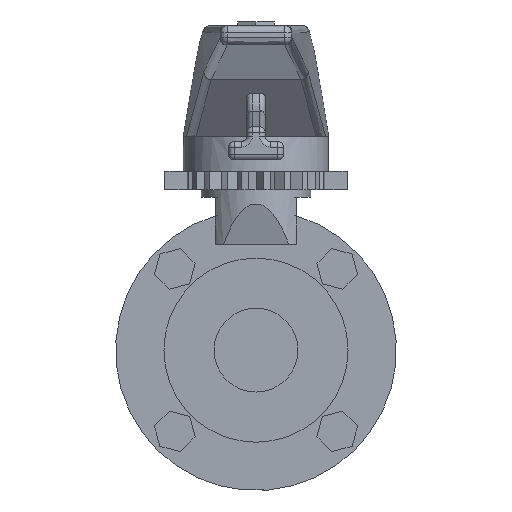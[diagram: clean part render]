
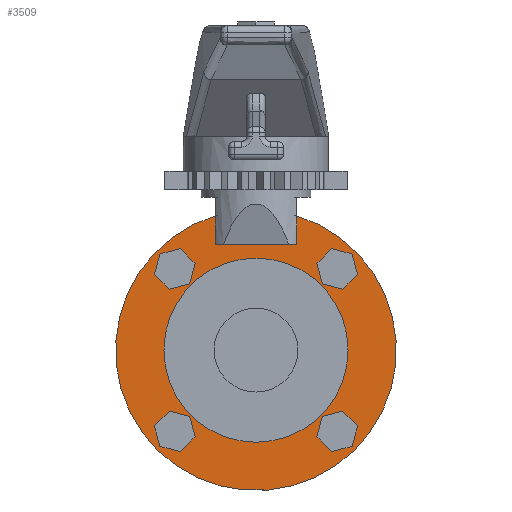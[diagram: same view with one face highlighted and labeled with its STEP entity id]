
A CAD part, front view. The second image highlights one B-rep face of the part: STEP entity #3509.
In plain terms, the highlighted planar face has unit normal (0, -1, 0).
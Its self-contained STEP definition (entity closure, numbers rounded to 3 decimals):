
#111=FACE_BOUND('',#564,.T.);
#112=FACE_BOUND('',#565,.T.);
#113=FACE_BOUND('',#566,.T.);
#114=FACE_BOUND('',#567,.T.);
#115=FACE_BOUND('',#568,.T.);
#116=FACE_BOUND('',#569,.T.);
#147=CIRCLE('',#3724,25.25);
#148=CIRCLE('',#3730,38.5);
#564=EDGE_LOOP('',(#2416,#2417,#2418,#2419,#2420,#2421));
#565=EDGE_LOOP('',(#2422,#2423,#2424,#2425,#2426,#2427));
#566=EDGE_LOOP('',(#2428,#2429,#2430,#2431,#2432,#2433));
#567=EDGE_LOOP('',(#2434,#2435,#2436,#2437,#2438,#2439));
#568=EDGE_LOOP('',(#2440));
#569=EDGE_LOOP('',(#2441,#2442,#2443,#2444));
#784=LINE('',#5052,#1106);
#788=LINE('',#5059,#1110);
#791=LINE('',#5065,#1113);
#794=LINE('',#5071,#1116);
#797=LINE('',#5077,#1119);
#799=LINE('',#5080,#1121);
#802=LINE('',#5089,#1124);
#806=LINE('',#5096,#1128);
#809=LINE('',#5102,#1131);
#812=LINE('',#5108,#1134);
#815=LINE('',#5114,#1137);
#817=LINE('',#5117,#1139);
#820=LINE('',#5126,#1142);
#824=LINE('',#5133,#1146);
#827=LINE('',#5139,#1149);
#830=LINE('',#5145,#1152);
#833=LINE('',#5151,#1155);
#835=LINE('',#5154,#1157);
#838=LINE('',#5163,#1160);
#842=LINE('',#5170,#1164);
#845=LINE('',#5176,#1167);
#848=LINE('',#5182,#1170);
#851=LINE('',#5188,#1173);
#853=LINE('',#5191,#1175);
#854=LINE('',#5222,#1176);
#855=LINE('',#5224,#1177);
#856=LINE('',#5226,#1178);
#1106=VECTOR('',#4106,5.774);
#1110=VECTOR('',#4112,5.774);
#1113=VECTOR('',#4117,5.774);
#1116=VECTOR('',#4122,5.774);
#1119=VECTOR('',#4127,5.774);
#1121=VECTOR('',#4131,5.774);
#1124=VECTOR('',#4138,5.774);
#1128=VECTOR('',#4144,5.774);
#1131=VECTOR('',#4149,5.774);
#1134=VECTOR('',#4154,5.774);
#1137=VECTOR('',#4159,5.774);
#1139=VECTOR('',#4163,5.774);
#1142=VECTOR('',#4170,5.774);
#1146=VECTOR('',#4176,5.774);
#1149=VECTOR('',#4181,5.774);
#1152=VECTOR('',#4186,5.774);
#1155=VECTOR('',#4191,5.774);
#1157=VECTOR('',#4195,5.774);
#1160=VECTOR('',#4202,5.774);
#1164=VECTOR('',#4208,5.774);
#1167=VECTOR('',#4213,5.774);
#1170=VECTOR('',#4218,5.774);
#1173=VECTOR('',#4223,5.774);
#1175=VECTOR('',#4227,5.774);
#1176=VECTOR('',#4268,7.841);
#1177=VECTOR('',#4269,22.361);
#1178=VECTOR('',#4270,7.841);
#1412=VERTEX_POINT('',#5049);
#1413=VERTEX_POINT('',#5051);
#1415=VERTEX_POINT('',#5057);
#1417=VERTEX_POINT('',#5063);
#1419=VERTEX_POINT('',#5069);
#1421=VERTEX_POINT('',#5075);
#1424=VERTEX_POINT('',#5086);
#1425=VERTEX_POINT('',#5088);
#1427=VERTEX_POINT('',#5094);
#1429=VERTEX_POINT('',#5100);
#1431=VERTEX_POINT('',#5106);
#1433=VERTEX_POINT('',#5112);
#1436=VERTEX_POINT('',#5123);
#1437=VERTEX_POINT('',#5125);
#1439=VERTEX_POINT('',#5131);
#1441=VERTEX_POINT('',#5137);
#1443=VERTEX_POINT('',#5143);
#1445=VERTEX_POINT('',#5149);
#1448=VERTEX_POINT('',#5160);
#1449=VERTEX_POINT('',#5162);
#1451=VERTEX_POINT('',#5168);
#1453=VERTEX_POINT('',#5174);
#1455=VERTEX_POINT('',#5180);
#1457=VERTEX_POINT('',#5186);
#1465=VERTEX_POINT('',#5213);
#1466=VERTEX_POINT('',#5220);
#1467=VERTEX_POINT('',#5221);
#1468=VERTEX_POINT('',#5223);
#1469=VERTEX_POINT('',#5225);
#1747=EDGE_CURVE('',#1413,#1412,#784,.T.);
#1751=EDGE_CURVE('',#1412,#1415,#788,.T.);
#1754=EDGE_CURVE('',#1415,#1417,#791,.T.);
#1757=EDGE_CURVE('',#1417,#1419,#794,.T.);
#1760=EDGE_CURVE('',#1419,#1421,#797,.T.);
#1762=EDGE_CURVE('',#1421,#1413,#799,.T.);
#1765=EDGE_CURVE('',#1425,#1424,#802,.T.);
#1769=EDGE_CURVE('',#1424,#1427,#806,.T.);
#1772=EDGE_CURVE('',#1427,#1429,#809,.T.);
#1775=EDGE_CURVE('',#1429,#1431,#812,.T.);
#1778=EDGE_CURVE('',#1431,#1433,#815,.T.);
#1780=EDGE_CURVE('',#1433,#1425,#817,.T.);
#1783=EDGE_CURVE('',#1437,#1436,#820,.T.);
#1787=EDGE_CURVE('',#1436,#1439,#824,.T.);
#1790=EDGE_CURVE('',#1439,#1441,#827,.T.);
#1793=EDGE_CURVE('',#1441,#1443,#830,.T.);
#1796=EDGE_CURVE('',#1443,#1445,#833,.T.);
#1798=EDGE_CURVE('',#1445,#1437,#835,.T.);
#1801=EDGE_CURVE('',#1449,#1448,#838,.T.);
#1805=EDGE_CURVE('',#1448,#1451,#842,.T.);
#1808=EDGE_CURVE('',#1451,#1453,#845,.T.);
#1811=EDGE_CURVE('',#1453,#1455,#848,.T.);
#1814=EDGE_CURVE('',#1455,#1457,#851,.T.);
#1816=EDGE_CURVE('',#1457,#1449,#853,.T.);
#1824=EDGE_CURVE('',#1465,#1465,#147,.T.);
#1825=EDGE_CURVE('',#1466,#1467,#854,.T.);
#1826=EDGE_CURVE('',#1468,#1466,#855,.T.);
#1827=EDGE_CURVE('',#1469,#1468,#856,.T.);
#1828=EDGE_CURVE('',#1467,#1469,#148,.T.);
#2416=ORIENTED_EDGE('',*,*,#1747,.T.);
#2417=ORIENTED_EDGE('',*,*,#1751,.T.);
#2418=ORIENTED_EDGE('',*,*,#1754,.T.);
#2419=ORIENTED_EDGE('',*,*,#1757,.T.);
#2420=ORIENTED_EDGE('',*,*,#1760,.T.);
#2421=ORIENTED_EDGE('',*,*,#1762,.T.);
#2422=ORIENTED_EDGE('',*,*,#1765,.T.);
#2423=ORIENTED_EDGE('',*,*,#1769,.T.);
#2424=ORIENTED_EDGE('',*,*,#1772,.T.);
#2425=ORIENTED_EDGE('',*,*,#1775,.T.);
#2426=ORIENTED_EDGE('',*,*,#1778,.T.);
#2427=ORIENTED_EDGE('',*,*,#1780,.T.);
#2428=ORIENTED_EDGE('',*,*,#1783,.T.);
#2429=ORIENTED_EDGE('',*,*,#1787,.T.);
#2430=ORIENTED_EDGE('',*,*,#1790,.T.);
#2431=ORIENTED_EDGE('',*,*,#1793,.T.);
#2432=ORIENTED_EDGE('',*,*,#1796,.T.);
#2433=ORIENTED_EDGE('',*,*,#1798,.T.);
#2434=ORIENTED_EDGE('',*,*,#1801,.T.);
#2435=ORIENTED_EDGE('',*,*,#1805,.T.);
#2436=ORIENTED_EDGE('',*,*,#1808,.T.);
#2437=ORIENTED_EDGE('',*,*,#1811,.T.);
#2438=ORIENTED_EDGE('',*,*,#1814,.T.);
#2439=ORIENTED_EDGE('',*,*,#1816,.T.);
#2440=ORIENTED_EDGE('',*,*,#1824,.T.);
#2441=ORIENTED_EDGE('',*,*,#1825,.F.);
#2442=ORIENTED_EDGE('',*,*,#1826,.F.);
#2443=ORIENTED_EDGE('',*,*,#1827,.F.);
#2444=ORIENTED_EDGE('',*,*,#1828,.F.);
#3168=PLANE('',#3729);
#3509=ADVANCED_FACE('',(#111,#112,#113,#114,#115,#116),#3168,.T.);
#3724=AXIS2_PLACEMENT_3D('',#5214,#4256,#4257);
#3729=AXIS2_PLACEMENT_3D('',#5219,#4266,#4267);
#3730=AXIS2_PLACEMENT_3D('',#5227,#4271,#4272);
#4106=DIRECTION('',(-0.966,0.,-0.259));
#4112=DIRECTION('',(-0.707,0.,0.707));
#4117=DIRECTION('',(0.259,0.,0.966));
#4122=DIRECTION('',(0.966,0.,0.259));
#4127=DIRECTION('',(0.707,0.,-0.707));
#4131=DIRECTION('',(-0.259,0.,-0.966));
#4138=DIRECTION('',(-0.259,0.,0.966));
#4144=DIRECTION('',(0.707,0.,0.707));
#4149=DIRECTION('',(0.966,0.,-0.259));
#4154=DIRECTION('',(0.259,0.,-0.966));
#4159=DIRECTION('',(-0.707,0.,-0.707));
#4163=DIRECTION('',(-0.966,0.,0.259));
#4170=DIRECTION('',(-0.707,0.,0.707));
#4176=DIRECTION('',(0.259,0.,0.966));
#4181=DIRECTION('',(0.966,0.,0.259));
#4186=DIRECTION('',(0.707,0.,-0.707));
#4191=DIRECTION('',(-0.259,0.,-0.966));
#4195=DIRECTION('',(-0.966,0.,-0.259));
#4202=DIRECTION('',(0.259,0.,-0.966));
#4208=DIRECTION('',(-0.707,0.,-0.707));
#4213=DIRECTION('',(-0.966,0.,0.259));
#4218=DIRECTION('',(-0.259,0.,0.966));
#4223=DIRECTION('',(0.707,0.,0.707));
#4227=DIRECTION('',(0.966,0.,-0.259));
#4256=DIRECTION('center_axis',(0.,1.,0.));
#4257=DIRECTION('ref_axis',(-1.,0.,0.));
#4266=DIRECTION('center_axis',(0.,-1.,0.));
#4267=DIRECTION('ref_axis',(0.,0.,-1.));
#4268=DIRECTION('',(0.,0.,1.));
#4269=DIRECTION('',(1.,0.,0.));
#4270=DIRECTION('',(0.,0.,-1.));
#4271=DIRECTION('center_axis',(0.,1.,0.));
#4272=DIRECTION('ref_axis',(1.,0.,0.));
#5049=CARTESIAN_POINT('',(-23.768,-10.,-27.303));
#5051=CARTESIAN_POINT('',(-18.191,-10.,-25.809));
#5052=CARTESIAN_POINT('',(-11.979,-10.,-24.144));
#5057=CARTESIAN_POINT('',(-27.851,-10.,-23.22));
#5059=CARTESIAN_POINT('',(-13.652,-10.,-37.419));
#5063=CARTESIAN_POINT('',(-26.356,-10.,-17.644));
#5065=CARTESIAN_POINT('',(-29.515,-10.,-29.433));
#5069=CARTESIAN_POINT('',(-20.78,-10.,-16.149));
#5071=CARTESIAN_POINT('',(-17.355,-10.,-15.232));
#5075=CARTESIAN_POINT('',(-16.697,-10.,-20.232));
#5077=CARTESIAN_POINT('',(-8.622,-10.,-28.307));
#5080=CARTESIAN_POINT('',(-19.109,-10.,-29.233));
#5086=CARTESIAN_POINT('',(16.697,-10.,-20.232));
#5088=CARTESIAN_POINT('',(18.191,-10.,-25.809));
#5089=CARTESIAN_POINT('',(19.856,-10.,-32.021));
#5094=CARTESIAN_POINT('',(20.78,-10.,-16.149));
#5096=CARTESIAN_POINT('',(6.581,-10.,-30.348));
#5100=CARTESIAN_POINT('',(26.356,-10.,-17.644));
#5102=CARTESIAN_POINT('',(14.567,-10.,-14.485));
#5106=CARTESIAN_POINT('',(27.851,-10.,-23.22));
#5108=CARTESIAN_POINT('',(28.768,-10.,-26.645));
#5112=CARTESIAN_POINT('',(23.768,-10.,-27.303));
#5114=CARTESIAN_POINT('',(15.693,-10.,-35.378));
#5117=CARTESIAN_POINT('',(14.767,-10.,-24.891));
#5123=CARTESIAN_POINT('',(16.697,-10.,-67.768));
#5125=CARTESIAN_POINT('',(20.78,-10.,-71.851));
#5126=CARTESIAN_POINT('',(8.622,-10.,-59.693));
#5131=CARTESIAN_POINT('',(18.191,-10.,-62.191));
#5133=CARTESIAN_POINT('',(19.109,-10.,-58.767));
#5137=CARTESIAN_POINT('',(23.768,-10.,-60.697));
#5139=CARTESIAN_POINT('',(11.979,-10.,-63.856));
#5143=CARTESIAN_POINT('',(27.851,-10.,-64.78));
#5145=CARTESIAN_POINT('',(13.652,-10.,-50.581));
#5149=CARTESIAN_POINT('',(26.356,-10.,-70.356));
#5151=CARTESIAN_POINT('',(29.515,-10.,-58.567));
#5154=CARTESIAN_POINT('',(17.355,-10.,-72.768));
#5160=CARTESIAN_POINT('',(-16.697,-10.,-67.768));
#5162=CARTESIAN_POINT('',(-18.191,-10.,-62.191));
#5163=CARTESIAN_POINT('',(-19.856,-10.,-55.979));
#5168=CARTESIAN_POINT('',(-20.78,-10.,-71.851));
#5170=CARTESIAN_POINT('',(-6.581,-10.,-57.652));
#5174=CARTESIAN_POINT('',(-26.356,-10.,-70.356));
#5176=CARTESIAN_POINT('',(-14.567,-10.,-73.515));
#5180=CARTESIAN_POINT('',(-27.851,-10.,-64.78));
#5182=CARTESIAN_POINT('',(-28.768,-10.,-61.355));
#5186=CARTESIAN_POINT('',(-23.768,-10.,-60.697));
#5188=CARTESIAN_POINT('',(-15.693,-10.,-52.622));
#5191=CARTESIAN_POINT('',(-14.767,-10.,-63.109));
#5213=CARTESIAN_POINT('',(25.25,-10.,-44.));
#5214=CARTESIAN_POINT('Origin',(0.,-10.,-44.));
#5219=CARTESIAN_POINT('Origin',(0.,-10.,-44.));
#5220=CARTESIAN_POINT('',(11.18,-10.,-15.));
#5221=CARTESIAN_POINT('',(11.18,-10.,-7.159));
#5222=CARTESIAN_POINT('',(11.18,-10.,0.));
#5223=CARTESIAN_POINT('',(-11.18,-10.,-15.));
#5224=CARTESIAN_POINT('',(0.,-10.,-15.));
#5225=CARTESIAN_POINT('',(-11.18,-10.,-7.159));
#5226=CARTESIAN_POINT('',(-11.18,-10.,0.));
#5227=CARTESIAN_POINT('Origin',(0.,-10.,-44.));
